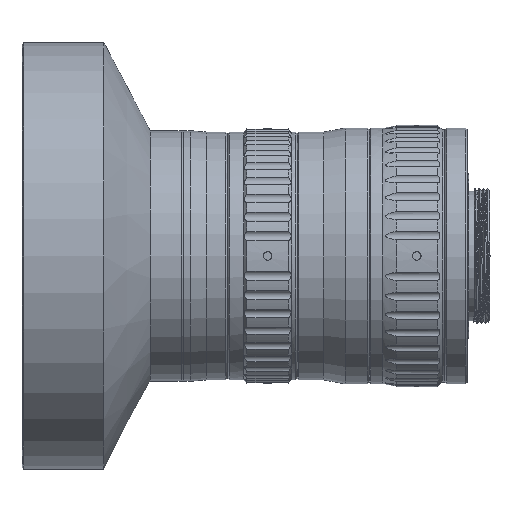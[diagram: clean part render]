
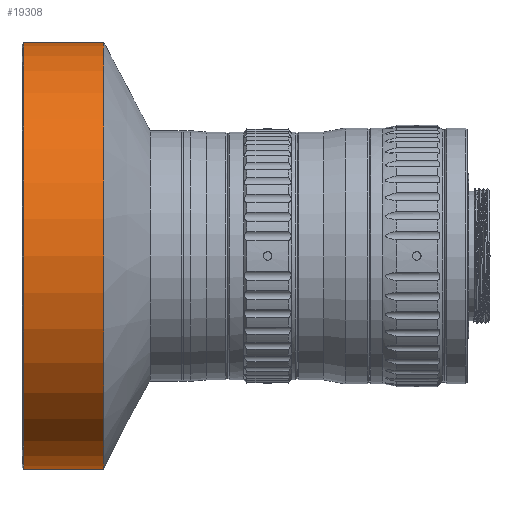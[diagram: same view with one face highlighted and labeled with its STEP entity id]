
A CAD part, front view. The second image highlights one B-rep face of the part: STEP entity #19308.
In plain terms, the highlighted cylindrical face has radius 40 mm (diameter 80 mm), a full revolution.
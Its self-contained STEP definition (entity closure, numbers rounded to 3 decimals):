
#2580 = EDGE_CURVE ( 'NONE', #89146, #89146, #30869, .T. ) ;
#2607 = CARTESIAN_POINT ( 'NONE',  ( -7.68, 0., -40. ) ) ;
#8687 = CARTESIAN_POINT ( 'NONE',  ( -22.73, 0., 0. ) ) ;
#18498 = DIRECTION ( 'NONE',  ( 0., 0., -1. ) ) ;
#19308 = ADVANCED_FACE ( 'NONE', ( #90451, #41398 ), #26447, .T. ) ;
#19913 = CARTESIAN_POINT ( 'NONE',  ( -24.232, 0., 0. ) ) ;
#26447 = CYLINDRICAL_SURFACE ( 'NONE', #83050, 40. ) ;
#26565 = ORIENTED_EDGE ( 'NONE', *, *, #87271, .T. ) ;
#30869 = CIRCLE ( 'NONE', #32379, 40. ) ;
#32379 = AXIS2_PLACEMENT_3D ( 'NONE', #8687, #52139, #65235 ) ;
#34761 = EDGE_LOOP ( 'NONE', ( #26565 ) ) ;
#38156 = CARTESIAN_POINT ( 'NONE',  ( -7.68, 0., 0. ) ) ;
#41398 = FACE_OUTER_BOUND ( 'NONE', #53344, .T. ) ;
#44264 = DIRECTION ( 'NONE',  ( -1., 0., 0. ) ) ;
#45240 = AXIS2_PLACEMENT_3D ( 'NONE', #38156, #44264, #18498 ) ;
#51705 = VERTEX_POINT ( 'NONE', #2607 ) ;
#52139 = DIRECTION ( 'NONE',  ( 1., 0., 0. ) ) ;
#53344 = EDGE_LOOP ( 'NONE', ( #92191 ) ) ;
#65235 = DIRECTION ( 'NONE',  ( 0., 0., -1. ) ) ;
#77363 = DIRECTION ( 'NONE',  ( 0., 0., -1. ) ) ;
#83050 = AXIS2_PLACEMENT_3D ( 'NONE', #19913, #90001, #77363 ) ;
#85532 = CIRCLE ( 'NONE', #45240, 40. ) ;
#87271 = EDGE_CURVE ( 'NONE', #51705, #51705, #85532, .T. ) ;
#88226 = CARTESIAN_POINT ( 'NONE',  ( -22.73, 0., -40. ) ) ;
#89146 = VERTEX_POINT ( 'NONE', #88226 ) ;
#90001 = DIRECTION ( 'NONE',  ( 1., 0., 0. ) ) ;
#90451 = FACE_OUTER_BOUND ( 'NONE', #34761, .T. ) ;
#92191 = ORIENTED_EDGE ( 'NONE', *, *, #2580, .T. ) ;
